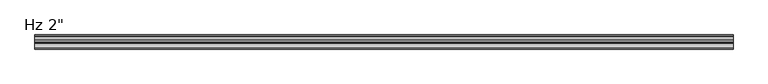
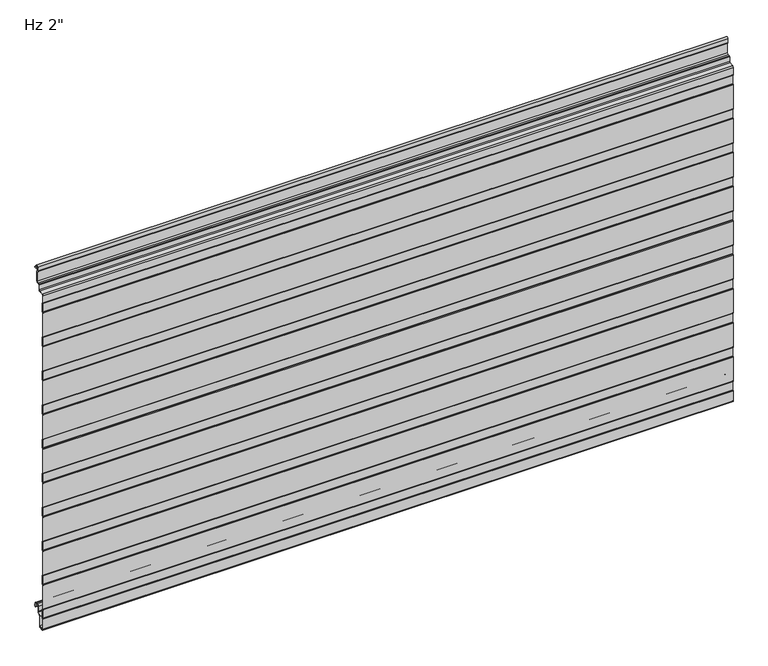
"""IFC4 building model written with IfcOpenShell, lengths in millimetres: plate geometry."""

from ifc_helpers import new_model, si_unit, point, frame, frame_2d, origin, place, context, project, spatial, polyline, circle_curve, trimmed, segment, composite_curve, outline, extrude, source, transform, mapped, element, save


def plate_cd0d1659(model_context):
    return source(origin(), model_context, "Body", "SweptSolid", [
        extrude(outline(composite_curve([segment(trimmed(circle_curve(frame_2d((-49.3998717, -10.6415934)), 1.3998661), [point((-50.7997378, -10.6415934))], [point((-50.3324955, -9.5976403))], False, "CARTESIAN"), True, "CONTINUOUS"), segment(polyline([(-50.3324955, -9.5976403), (-49.5997693, -8.8649141), (-49.5997693, 10.0260713), (-50.3327349, 10.7590369)]), True, "CONTINUOUS"), segment(trimmed(circle_curve(frame_2d((-49.4000237, 11.8030877)), 1.3999972), [point((-50.3327349, 10.7590369))], [point((-50.8, 11.810741))], False, "CARTESIAN"), True, "CONTINUOUS"), segment(polyline([(-50.8, 11.810741), (-50.8, 65.5582542)]), True, "CONTINUOUS"), segment(trimmed(circle_curve(frame_2d((-49.4000028, 65.5582542)), 1.3999972), [point((-50.8, 65.5582542))], [point((-50.332714, 66.602305))], False, "CARTESIAN"), True, "CONTINUOUS"), segment(polyline([(-50.332714, 66.602305), (-49.5997693, 67.3352497), (-49.5997693, 86.2259189), (-50.3327349, 86.9588845)]), True, "CONTINUOUS"), segment(trimmed(circle_curve(frame_2d((-49.4000237, 88.0029353)), 1.3999972), [point((-50.3327349, 86.9588845))], [point((-50.8, 88.0105886))], False, "CARTESIAN"), True, "CONTINUOUS"), segment(polyline([(-50.8, 88.0105886), (-50.8, 141.7581018)]), True, "CONTINUOUS"), segment(trimmed(circle_curve(frame_2d((-49.4000028, 141.7581018)), 1.3999972), [point((-50.8, 141.7581018))], [point((-50.332714, 142.8021526))], False, "CARTESIAN"), True, "CONTINUOUS"), segment(polyline([(-50.332714, 142.8021526), (-49.5997693, 143.5350973), (-49.5997693, 162.4257665), (-50.3327349, 163.1587321)]), True, "CONTINUOUS"), segment(trimmed(circle_curve(frame_2d((-49.4000237, 164.2027829)), 1.3999972), [point((-50.3327349, 163.1587321))], [point((-50.8, 164.2104362))], False, "CARTESIAN"), True, "CONTINUOUS"), segment(polyline([(-50.8, 164.2104362), (-50.8, 217.9579494)]), True, "CONTINUOUS"), segment(trimmed(circle_curve(frame_2d((-49.4000028, 217.9579494)), 1.3999972), [point((-50.8, 217.9579494))], [point((-50.332714, 219.0020002))], False, "CARTESIAN"), True, "CONTINUOUS"), segment(polyline([(-50.332714, 219.0020002), (-49.5997693, 219.7349449), (-49.5997693, 238.6256141), (-50.3327349, 239.3585797)]), True, "CONTINUOUS"), segment(trimmed(circle_curve(frame_2d((-49.4000237, 240.4026305)), 1.3999972), [point((-50.3327349, 239.3585797))], [point((-50.8, 240.4102838))], False, "CARTESIAN"), True, "CONTINUOUS"), segment(polyline([(-50.8, 240.4102838), (-50.8, 294.157797)]), True, "CONTINUOUS"), segment(trimmed(circle_curve(frame_2d((-49.4000028, 294.157797)), 1.3999972), [point((-50.8, 294.157797))], [point((-50.332714, 295.2018478))], False, "CARTESIAN"), True, "CONTINUOUS"), segment(polyline([(-50.332714, 295.2018478), (-49.5997693, 295.9347925), (-49.5997693, 314.8254617), (-50.3327349, 315.5584273)]), True, "CONTINUOUS"), segment(trimmed(circle_curve(frame_2d((-49.4000237, 316.6024781)), 1.3999972), [point((-50.3327349, 315.5584273))], [point((-50.8, 316.6101314))], False, "CARTESIAN"), True, "CONTINUOUS"), segment(polyline([(-50.8, 316.6101314), (-50.8, 370.3576446)]), True, "CONTINUOUS"), segment(trimmed(circle_curve(frame_2d((-49.4000028, 370.3576446)), 1.3999972), [point((-50.8, 370.3576446))], [point((-50.332714, 371.4016954))], False, "CARTESIAN"), True, "CONTINUOUS"), segment(polyline([(-50.332714, 371.4016954), (-49.5997693, 372.1346401), (-49.5997693, 391.0253093), (-50.3327349, 391.7582749)]), True, "CONTINUOUS"), segment(trimmed(circle_curve(frame_2d((-49.4000237, 392.8023257)), 1.3999972), [point((-50.3327349, 391.7582749))], [point((-50.8, 392.809979))], False, "CARTESIAN"), True, "CONTINUOUS"), segment(polyline([(-50.8, 392.809979), (-50.8, 446.5574922)]), True, "CONTINUOUS"), segment(trimmed(circle_curve(frame_2d((-49.4000028, 446.5574922)), 1.3999972), [point((-50.8, 446.5574922))], [point((-50.332714, 447.601543))], False, "CARTESIAN"), True, "CONTINUOUS"), segment(polyline([(-50.332714, 447.601543), (-49.5997693, 448.3344877), (-49.5997693, 467.2251569), (-50.3327349, 467.9581225)]), True, "CONTINUOUS"), segment(trimmed(circle_curve(frame_2d((-49.4000237, 469.0021733)), 1.3999972), [point((-50.3327349, 467.9581225))], [point((-50.8, 469.0098266))], False, "CARTESIAN"), True, "CONTINUOUS"), segment(polyline([(-50.8, 469.0098266), (-50.8, 522.7573398)]), True, "CONTINUOUS"), segment(trimmed(circle_curve(frame_2d((-49.4000028, 522.7573398)), 1.3999972), [point((-50.8, 522.7573398))], [point((-50.332714, 523.8013906))], False, "CARTESIAN"), True, "CONTINUOUS"), segment(polyline([(-50.332714, 523.8013906), (-49.5997693, 524.5343353), (-49.5997693, 543.4250045), (-50.3327349, 544.1579701)]), True, "CONTINUOUS"), segment(trimmed(circle_curve(frame_2d((-49.4000237, 545.2020209)), 1.3999972), [point((-50.3327349, 544.1579701))], [point((-50.8, 545.2096742))], False, "CARTESIAN"), True, "CONTINUOUS"), segment(polyline([(-50.8, 545.2096742), (-50.8, 598.9571874)]), True, "CONTINUOUS"), segment(trimmed(circle_curve(frame_2d((-49.4000028, 598.9571874)), 1.3999972), [point((-50.8, 598.9571874))], [point((-50.332714, 600.0012382))], False, "CARTESIAN"), True, "CONTINUOUS"), segment(polyline([(-50.332714, 600.0012382), (-49.5997693, 600.7341829), (-49.5997693, 619.6248521), (-50.3327349, 620.3578177)]), True, "CONTINUOUS"), segment(trimmed(circle_curve(frame_2d((-49.4000237, 621.4018685)), 1.3999972), [point((-50.3327349, 620.3578177))], [point((-50.8, 621.4095218))], False, "CARTESIAN"), True, "CONTINUOUS"), segment(polyline([(-50.8, 621.4095218), (-50.8, 675.157035)]), True, "CONTINUOUS"), segment(trimmed(circle_curve(frame_2d((-49.4000028, 675.157035)), 1.3999972), [point((-50.8, 675.157035))], [point((-50.332714, 676.2010858))], False, "CARTESIAN"), True, "CONTINUOUS"), segment(polyline([(-50.332714, 676.2010858), (-49.5997693, 676.9340305), (-49.5997693, 695.8246997), (-50.3327349, 696.5576653)]), True, "CONTINUOUS"), segment(trimmed(circle_curve(frame_2d((-49.4000237, 697.6017161)), 1.3999972), [point((-50.3327349, 696.5576653))], [point((-50.7990984, 697.6525313))], False, "CARTESIAN"), True, "CONTINUOUS"), segment(polyline([(-50.7990984, 697.6525313), (-50.7990984, 713.5384359)]), True, "CONTINUOUS"), segment(trimmed(circle_curve(frame_2d((-47.8491043, 713.5384359)), 2.9499941), [point((-50.7990984, 713.5384359))], [point((-48.1062132, 716.4772044))], False, "CARTESIAN"), True, "CONTINUOUS"), segment(polyline([(-48.1062132, 716.4772044), (-39.6419168, 717.2177344)]), True, "CONTINUOUS"), segment(trimmed(circle_curve(frame_2d((-39.8188426, 719.2400056)), 2.0299959), [point((-39.6419168, 717.2177344))], [point((-37.7914567, 719.3429135))], True, "CARTESIAN"), True, "CONTINUOUS"), segment(polyline([(-37.7914567, 719.3429135), (-37.7914567, 729.4595941)]), True, "CONTINUOUS"), segment(trimmed(circle_curve(frame_2d((-35.8423033, 729.4595941)), 1.9491534), [point((-37.7914567, 729.4595941))], [point((-35.8423033, 731.4087475))], False, "CARTESIAN"), True, "CONTINUOUS"), segment(polyline([(-35.8423033, 731.4087475), (-32.7009036, 731.4087475)]), True, "CONTINUOUS"), segment(trimmed(circle_curve(frame_2d((-32.7009036, 734.4087415)), 2.999994), [point((-32.7009036, 731.4087475))], [point((-29.7009096, 734.4087415))], True, "CARTESIAN"), True, "CONTINUOUS"), segment(polyline([(-29.7009096, 734.4087415), (-29.7009096, 755.0122013), (-30.9467537, 755.7314897)]), True, "CONTINUOUS"), segment(trimmed(circle_curve(frame_2d((-30.2217552, 756.987224)), 1.4499971), [point((-30.9467537, 755.7314897))], [point((-31.6709833, 757.0344401))], False, "CARTESIAN"), True, "CONTINUOUS"), segment(polyline([(-31.6709833, 757.0344401), (-31.326075, 765.7463704)]), True, "CONTINUOUS"), segment(trimmed(circle_curve(frame_2d((-28.2266291, 765.6236622)), 3.1018739), [point((-31.326075, 765.7463704))], [point((-25.1275082, 765.7543204))], False, "CARTESIAN"), True, "CONTINUOUS"), segment(polyline([(-25.1275082, 765.7543204), (-24.8837214, 761.7587)]), True, "CONTINUOUS"), segment(trimmed(circle_curve(frame_2d((-24.0434917, 761.8099653)), 0.8417922), [point((-24.8837214, 761.7587))], [point((-24.0729389, 760.9686884))], True, "CARTESIAN"), True, "CONTINUOUS"), segment(polyline([(-24.0729389, 760.9686884), (-21.3025061, 760.9686884), (-21.3025061, 759.9686884), (-24.0870527, 759.9686884)]), True, "CONTINUOUS"), segment(trimmed(circle_curve(frame_2d((-24.0434917, 761.8099653)), 1.8417922), [point((-24.0870527, 759.9686884))], [point((-25.8818653, 761.6977997))], False, "CARTESIAN"), True, "CONTINUOUS"), segment(polyline([(-25.8818653, 761.6977997), (-26.1262802, 765.7037148)]), True, "CONTINUOUS"), segment(trimmed(circle_curve(frame_2d((-28.2266291, 765.6236622)), 2.1018739), [point((-26.1262802, 765.7037148))], [point((-30.3268578, 765.706811))], True, "CARTESIAN"), True, "CONTINUOUS"), segment(polyline([(-30.3268578, 765.706811), (-30.6821181, 756.7334028), (-28.7009096, 755.5895515), (-28.7009096, 734.4087415)]), True, "CONTINUOUS"), segment(trimmed(circle_curve(frame_2d((-32.7009036, 734.4087415)), 3.999994), [point((-28.7009096, 734.4087415))], [point((-32.7009036, 730.4087475))], False, "CARTESIAN"), True, "CONTINUOUS"), segment(polyline([(-32.7009036, 730.4087475), (-35.8423033, 730.4087475)]), True, "CONTINUOUS"), segment(trimmed(circle_curve(frame_2d((-35.8423033, 729.4595941)), 0.9491534), [point((-35.8423033, 730.4087475))], [point((-36.7914567, 729.4595941))], True, "CARTESIAN"), True, "CONTINUOUS"), segment(polyline([(-36.7914567, 729.4595941), (-36.7914567, 719.3657441)]), True, "CONTINUOUS"), segment(trimmed(circle_curve(frame_2d((-39.8188426, 719.2400056)), 3.0299959), [point((-36.7914567, 719.3657441))], [point((-39.554761, 716.2215397))], False, "CARTESIAN"), True, "CONTINUOUS"), segment(polyline([(-39.554761, 716.2215397), (-48.0190575, 715.4810097)]), True, "CONTINUOUS"), segment(trimmed(circle_curve(frame_2d((-47.8491043, 713.5384359)), 1.9499941), [point((-48.0190575, 715.4810097))], [point((-49.7990984, 713.5384359))], True, "CARTESIAN"), True, "CONTINUOUS"), segment(polyline([(-49.7990984, 713.5384359), (-49.7990984, 697.4396652), (-48.5997693, 696.2403361), (-48.5997693, 676.5209236), (-49.8, 675.3206929), (-49.8, 621.2405611), (-48.5997693, 620.0403304), (-48.5997693, 600.3209179), (-49.8, 599.1206872), (-49.8, 545.0405554), (-48.5997693, 543.8403247), (-48.5997693, 524.1209122), (-49.8, 522.9206815), (-49.8, 468.8405497), (-48.5997693, 467.640319), (-48.5997693, 447.9209065), (-49.8, 446.7206758), (-49.8, 392.640544), (-48.5997693, 391.4403133), (-48.5997693, 371.7209008), (-49.8, 370.5206701), (-49.8, 316.4405383), (-48.5997693, 315.2403076), (-48.5997693, 295.5208951), (-49.8, 294.3206644), (-49.8, 240.2405326), (-48.5997693, 239.0403019), (-48.5997693, 219.3208894), (-49.8, 218.1206587), (-49.8, 164.0405269), (-48.5997693, 162.8402962), (-48.5997693, 143.1208837), (-49.8, 141.920653), (-49.8, 87.8405213), (-48.5997693, 86.6402905), (-48.5997693, 66.920878), (-49.8, 65.7206473), (-49.8, 11.6405156), (-48.5997693, 10.4402849), (-48.5997693, -9.2791277), (-49.7997378, -10.4790962), (-49.7997378, -32.4521176)]), True, "CONTINUOUS"), segment(trimmed(circle_curve(frame_2d((-47.2294985, -32.4521176)), 2.5702393), [point((-49.7997378, -32.4521176))], [point((-47.0054129, -35.0125699))], True, "CARTESIAN"), True, "CONTINUOUS"), segment(polyline([(-47.0054129, -35.0125699), (-42.023592, -34.5765709)]), True, "CONTINUOUS"), segment(trimmed(circle_curve(frame_2d((-42.5049826, -31.9198392)), 2.6999926), [point((-42.023592, -34.5765709))], [point((-39.80499, -31.9198392))], True, "CARTESIAN"), True, "CONTINUOUS"), segment(polyline([(-39.80499, -31.9198392), (-39.80499, -9.8247096), (-34.3029189, -4.3226385)]), True, "CONTINUOUS"), segment(trimmed(circle_curve(frame_2d((-35.5049966, -3.1205608)), 1.6999946), [point((-34.3029189, -4.3226385))], [point((-33.805002, -3.1205608))], True, "CARTESIAN"), True, "CONTINUOUS"), segment(polyline([(-33.805002, -3.1205608), (-33.805002, 8.6903283)]), True, "CONTINUOUS"), segment(trimmed(circle_curve(frame_2d((-30.4550067, 8.6903283)), 3.3499953), [point((-33.805002, 8.6903283))], [point((-30.4550067, 12.0403236))], False, "CARTESIAN"), True, "CONTINUOUS"), segment(polyline([(-30.4550067, 12.0403236), (-26.0550155, 12.0403236)]), True, "CONTINUOUS"), segment(trimmed(circle_curve(frame_2d((-26.0550155, 8.6903283)), 3.3499953), [point((-26.0550155, 12.0403236))], [point((-22.7050202, 8.6903283))], False, "CARTESIAN"), True, "CONTINUOUS"), segment(polyline([(-22.7050202, 8.6903283), (-22.7050202, 5.9912173), (-21.3065413, 5.9912173), (-21.3065413, 2.2328239)]), True, "CONTINUOUS"), segment(trimmed(circle_curve(frame_2d((-22.506538, 2.2313092)), 1.1999976), [point((-21.3065413, 2.2328239))], [point((-22.4760161, 1.0316999))], False, "CARTESIAN"), True, "CONTINUOUS"), segment(trimmed(circle_curve(frame_2d((-22.506538, 2.2313092)), 1.1999976), [point((-22.4760161, 1.0316999))], [point((-23.7050202, 2.1710221))], False, "CARTESIAN"), True, "CONTINUOUS"), segment(polyline([(-23.7050202, 2.1710221), (-23.7050202, 8.6903283)]), True, "CONTINUOUS"), segment(trimmed(circle_curve(frame_2d((-26.0550155, 8.6903283)), 2.3499953), [point((-23.7050202, 8.6903283))], [point((-26.0550155, 11.0403236))], True, "CARTESIAN"), True, "CONTINUOUS"), segment(polyline([(-26.0550155, 11.0403236), (-30.4550067, 11.0403236)]), True, "CONTINUOUS"), segment(trimmed(circle_curve(frame_2d((-30.4550067, 8.6903283)), 2.3499953), [point((-30.4550067, 11.0403236))], [point((-32.805002, 8.6903283))], True, "CARTESIAN"), True, "CONTINUOUS"), segment(polyline([(-32.805002, 8.6903283), (-32.805002, -3.1205608)]), True, "CONTINUOUS"), segment(trimmed(circle_curve(frame_2d((-35.5049966, -3.1205608)), 2.6999946), [point((-32.805002, -3.1205608))], [point((-33.5958121, -5.0297453))], False, "CARTESIAN"), True, "CONTINUOUS"), segment(polyline([(-33.5958121, -5.0297453), (-38.4242296, -9.8581627)]), True, "CONTINUOUS"), segment(trimmed(circle_curve(frame_2d((-37.5049926, -10.7773997)), 1.2999974), [point((-38.4242296, -9.8581627))], [point((-38.80499, -10.7773997))], True, "CARTESIAN"), True, "CONTINUOUS"), segment(polyline([(-38.80499, -10.7773997), (-38.80499, -31.9198392)]), True, "CONTINUOUS"), segment(trimmed(circle_curve(frame_2d((-42.5049826, -31.9198392)), 3.6999926), [point((-38.80499, -31.9198392))], [point((-41.8941815, -35.5690675))], False, "CARTESIAN"), True, "CONTINUOUS"), segment(polyline([(-41.8941815, -35.5690675), (-46.9182281, -36.008762)]), True, "CONTINUOUS"), segment(trimmed(circle_curve(frame_2d((-47.2294985, -32.4521176)), 3.5702393), [point((-46.9182281, -36.008762))], [point((-50.7997378, -32.4521176))], False, "CARTESIAN"), True, "CONTINUOUS"), segment(polyline([(-50.7997378, -32.4521176), (-50.7997378, -10.6415934)]), True, "CONTINUOUS")], self_intersect=False)), frame((-730.0, 0.0, 0.0), z_axis=(1.0, 0.0, 0.0), x_axis=(0.0, 1.0, 0.0)), (0.0, 0.0, 1.0), 1460.0),
    ])


if __name__ == "__main__":
    model = new_model("IFC4")
    model_context = context("Model", 3, world=origin())
    ifc_project = project(units=[si_unit("LENGTHUNIT", "METRE", prefix="MILLI")], contexts=[model_context])
    site = spatial("IfcSite", under=ifc_project)
    building = spatial("IfcBuilding", under=site)
    placement = place(None, origin())
    plate_shape = plate_cd0d1659(model_context)
    element("IfcPlate", 1, ObjectType="KIP-30-Karrier-KP-R19-CP-Hz-SL_SL : Hz 2\"", at=placement, inside=building, context=model_context, shape_type="MappedRepresentation", body=[
        mapped(plate_shape, transform((0.0, 0.0, 0.0), x_axis=(1.0, 0.0, 0.0), y_axis=(0.0, 1.0, 0.0), z_axis=(0.0, 0.0, 1.0))),
    ])
    save(model, "model.ifc")
